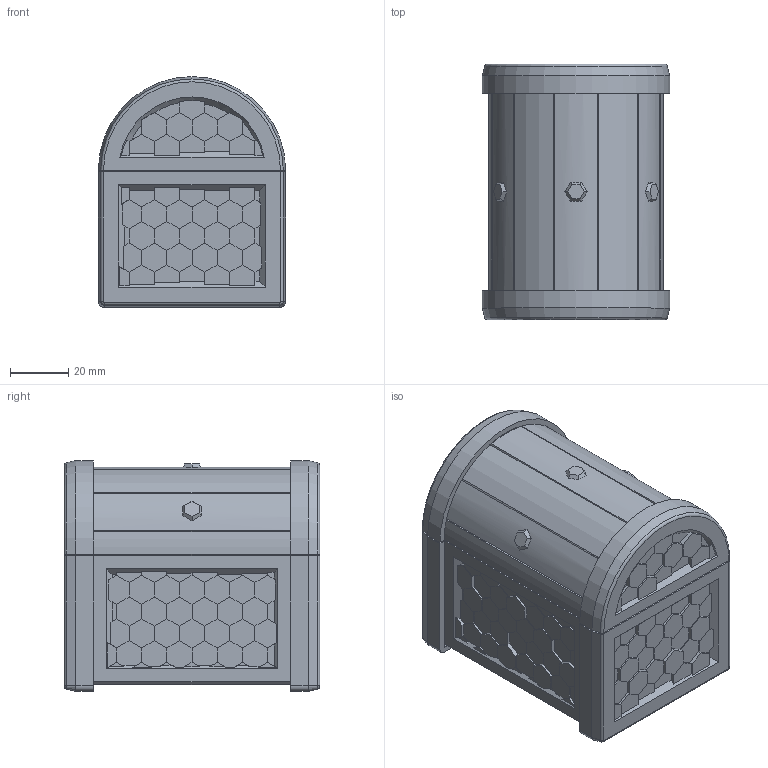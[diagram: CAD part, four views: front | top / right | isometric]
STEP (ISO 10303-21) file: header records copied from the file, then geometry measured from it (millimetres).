
FILE_DESCRIPTION(/* description */ (''),/* implementation_level */ '2;1');
FILE_NAME(/* name */ (''),/* time_stamp */ (''),/* author */ (''),/* organization */ (''),/* preprocessor_version */ 'ST-DEVELOPER v18.1',/* originating_system */ 'Autodesk Translation Framework v10.14.0.1471',/* authorisation */ '');
FILE_SCHEMA (('AUTOMOTIVE_DESIGN { 1 0 10303 214 3 1 1 }'));
Length unit declared in the file: millimetre
Products named in the file (1): Easy Print Treasure Chest Puzzle
Bounding box: 64.5 x 88 x 79.5 mm (x, y, z)
Volume: 180903.7 mm3; surface area: 100734.1 mm2
Topology: 10 solids, 10 shells, 1214 faces, 3167 edges, 1983 vertices
Faces by surface type: plane 1107, cylinder 57, cone 44, bspline 4, torus 2
Full cylindrical faces by diameter (mm): 2 x3
Entity records: 36270 total; most frequent: CARTESIAN_POINT 6645, ORIENTED_EDGE 6324, DIRECTION 5727, EDGE_CURVE 3162, LINE 2873, VECTOR 2873, VERTEX_POINT 1983, AXIS2_PLACEMENT_3D 1427
